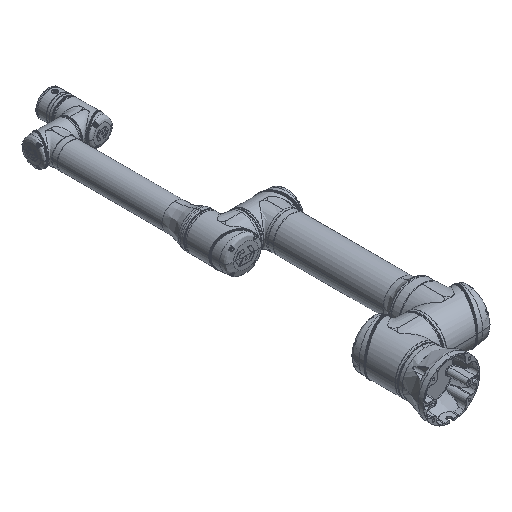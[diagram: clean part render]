
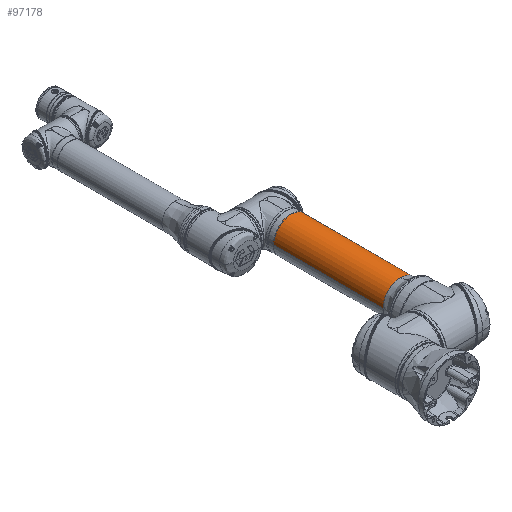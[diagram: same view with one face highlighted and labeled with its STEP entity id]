
A CAD part, isometric view. The second image highlights one B-rep face of the part: STEP entity #97178.
In plain terms, the highlighted cylindrical face has radius 59 mm (diameter 118 mm), a partial arc.
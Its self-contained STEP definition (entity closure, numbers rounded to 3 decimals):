
#13065 = VECTOR ( 'NONE', #272247, 1000. ) ;
#19318 = EDGE_LOOP ( 'NONE', ( #448922, #118512, #370074, #301589, #123239 ) ) ;
#36978 = LINE ( 'NONE', #545289, #460361 ) ;
#39328 = DIRECTION ( 'NONE',  ( 0., 0., -1. ) ) ;
#41861 = AXIS2_PLACEMENT_3D ( 'NONE', #533002, #202312, #457884 ) ;
#82887 = CARTESIAN_POINT ( 'NONE',  ( 158.463, 0., 59. ) ) ;
#97178 = ADVANCED_FACE ( 'NONE', ( #158966 ), #292231, .T. ) ;
#111748 = EDGE_CURVE ( 'NONE', #511228, #239785, #36978, .T. ) ;
#118512 = ORIENTED_EDGE ( 'NONE', *, *, #469462, .T. ) ;
#119149 = DIRECTION ( 'NONE',  ( 1., 0., 0. ) ) ;
#120027 = DIRECTION ( 'NONE',  ( 1., 0., 0. ) ) ;
#123239 = ORIENTED_EDGE ( 'NONE', *, *, #143947, .T. ) ;
#140571 = DIRECTION ( 'NONE',  ( 0., 0., -1. ) ) ;
#140973 = CIRCLE ( 'NONE', #345211, 59. ) ;
#141778 = VERTEX_POINT ( 'NONE', #157501 ) ;
#143947 = EDGE_CURVE ( 'NONE', #167643, #239785, #447918, .T. ) ;
#157501 = CARTESIAN_POINT ( 'NONE',  ( 158.463, -59., 0. ) ) ;
#158966 = FACE_OUTER_BOUND ( 'NONE', #19318, .T. ) ;
#160840 = DIRECTION ( 'NONE',  ( 0., 0., -1. ) ) ;
#162068 = DIRECTION ( 'NONE',  ( 1., 0., 0. ) ) ;
#167643 = VERTEX_POINT ( 'NONE', #303926 ) ;
#182501 = EDGE_CURVE ( 'NONE', #292488, #167643, #517423, .T. ) ;
#202312 = DIRECTION ( 'NONE',  ( 1., 0., 0. ) ) ;
#206084 = CARTESIAN_POINT ( 'NONE',  ( 562.7, 0., 0. ) ) ;
#208336 = AXIS2_PLACEMENT_3D ( 'NONE', #476780, #276661, #140571 ) ;
#239785 = VERTEX_POINT ( 'NONE', #324378 ) ;
#272247 = DIRECTION ( 'NONE',  ( 1., 0., 0. ) ) ;
#276661 = DIRECTION ( 'NONE',  ( -1., 0., 0. ) ) ;
#292231 = CYLINDRICAL_SURFACE ( 'NONE', #365013, 59. ) ;
#292488 = VERTEX_POINT ( 'NONE', #315404 ) ;
#300930 = CARTESIAN_POINT ( 'NONE',  ( 562.7, 0., -59. ) ) ;
#301589 = ORIENTED_EDGE ( 'NONE', *, *, #182501, .T. ) ;
#303926 = CARTESIAN_POINT ( 'NONE',  ( 526.1, 0., -59. ) ) ;
#315404 = CARTESIAN_POINT ( 'NONE',  ( 158.463, 0., -59. ) ) ;
#324378 = CARTESIAN_POINT ( 'NONE',  ( 526.1, 0., 59. ) ) ;
#338490 = CARTESIAN_POINT ( 'NONE',  ( 158.463, 0., 0. ) ) ;
#345211 = AXIS2_PLACEMENT_3D ( 'NONE', #338490, #119149, #160840 ) ;
#365013 = AXIS2_PLACEMENT_3D ( 'NONE', #206084, #120027, #39328 ) ;
#370074 = ORIENTED_EDGE ( 'NONE', *, *, #486603, .T. ) ;
#440883 = CIRCLE ( 'NONE', #41861, 59. ) ;
#447918 = CIRCLE ( 'NONE', #208336, 59. ) ;
#448922 = ORIENTED_EDGE ( 'NONE', *, *, #111748, .F. ) ;
#457884 = DIRECTION ( 'NONE',  ( 0., 0., -1. ) ) ;
#460361 = VECTOR ( 'NONE', #162068, 1000. ) ;
#469462 = EDGE_CURVE ( 'NONE', #511228, #141778, #440883, .T. ) ;
#476780 = CARTESIAN_POINT ( 'NONE',  ( 526.1, 0., 0. ) ) ;
#486603 = EDGE_CURVE ( 'NONE', #141778, #292488, #140973, .T. ) ;
#511228 = VERTEX_POINT ( 'NONE', #82887 ) ;
#517423 = LINE ( 'NONE', #300930, #13065 ) ;
#533002 = CARTESIAN_POINT ( 'NONE',  ( 158.463, 0., 0. ) ) ;
#545289 = CARTESIAN_POINT ( 'NONE',  ( 562.7, 0., 59. ) ) ;
